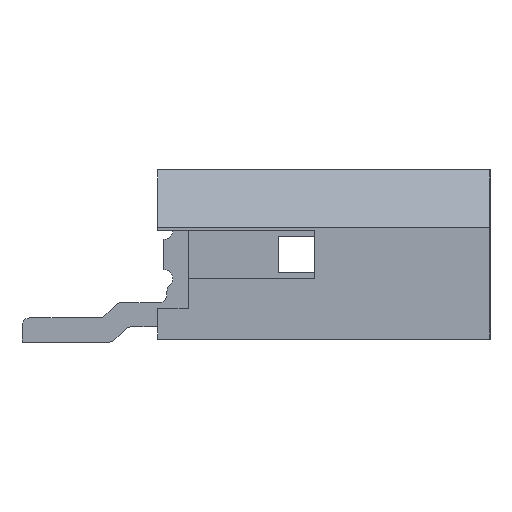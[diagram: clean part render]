
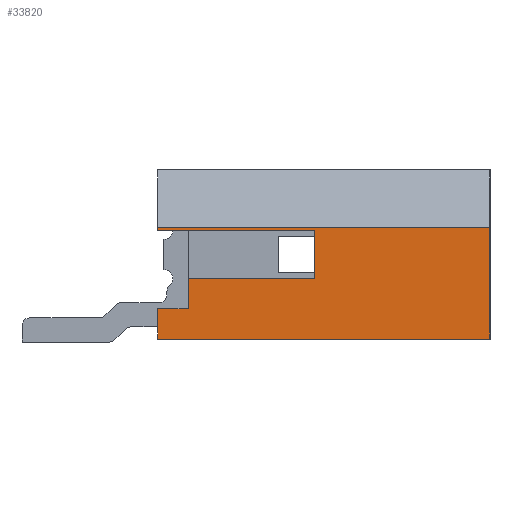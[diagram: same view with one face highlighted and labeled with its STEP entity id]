
A CAD part, left-side view. The second image highlights one B-rep face of the part: STEP entity #33820.
In plain terms, the highlighted planar face has unit normal (-1, 0, 0).
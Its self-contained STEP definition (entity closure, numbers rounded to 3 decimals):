
#24702=DIRECTION('',(0.,0.,-1.));
#24703=VECTOR('',#24702,1.85);
#24704=CARTESIAN_POINT('',(-4.,-2.75,0.45));
#24705=LINE('',#24704,#24703);
#24906=DIRECTION('',(0.,1.,0.));
#24907=VECTOR('',#24906,2.1);
#24908=CARTESIAN_POINT('',(-4.,0.15,-0.4));
#24909=LINE('',#24908,#24907);
#24910=DIRECTION('',(0.,0.,-1.));
#24911=VECTOR('',#24910,0.05);
#24912=CARTESIAN_POINT('',(-4.,2.75,0.45));
#24913=LINE('',#24912,#24911);
#24914=DIRECTION('',(0.,1.,0.));
#24915=VECTOR('',#24914,5.5);
#24916=CARTESIAN_POINT('',(-4.,-2.75,0.45));
#24917=LINE('',#24916,#24915);
#24918=DIRECTION('',(0.,0.,-1.));
#24919=VECTOR('',#24918,0.5);
#24920=CARTESIAN_POINT('',(-4.,2.75,-0.9));
#24921=LINE('',#24920,#24919);
#24922=DIRECTION('',(0.,1.,0.));
#24923=VECTOR('',#24922,0.5);
#24924=CARTESIAN_POINT('',(-4.,2.25,-0.9));
#24925=LINE('',#24924,#24923);
#24926=DIRECTION('',(0.,0.,-1.));
#24927=VECTOR('',#24926,0.5);
#24928=CARTESIAN_POINT('',(-4.,2.25,-0.4));
#24929=LINE('',#24928,#24927);
#24942=DIRECTION('',(0.,0.,1.));
#24943=VECTOR('',#24942,0.8);
#24944=CARTESIAN_POINT('',(-4.,0.15,-0.4));
#24945=LINE('',#24944,#24943);
#25110=DIRECTION('',(0.,1.,0.));
#25111=VECTOR('',#25110,2.6);
#25112=CARTESIAN_POINT('',(-4.,0.15,0.4));
#25113=LINE('',#25112,#25111);
#27214=DIRECTION('',(0.,1.,0.));
#27215=VECTOR('',#27214,5.5);
#27216=CARTESIAN_POINT('',(-4.,-2.75,-1.4));
#27217=LINE('',#27216,#27215);
#31976=CARTESIAN_POINT('',(-4.,2.75,-0.9));
#31977=CARTESIAN_POINT('',(-4.,2.75,-1.4));
#31978=VERTEX_POINT('',#31976);
#31979=VERTEX_POINT('',#31977);
#32399=CARTESIAN_POINT('',(-4.,0.15,-0.4));
#32400=CARTESIAN_POINT('',(-4.,2.25,-0.4));
#32401=VERTEX_POINT('',#32399);
#32402=VERTEX_POINT('',#32400);
#32603=CARTESIAN_POINT('',(-4.,-2.75,0.45));
#32604=CARTESIAN_POINT('',(-4.,2.75,0.45));
#32605=VERTEX_POINT('',#32603);
#32606=VERTEX_POINT('',#32604);
#32770=CARTESIAN_POINT('',(-4.,2.25,-0.9));
#32772=VERTEX_POINT('',#32770);
#32877=CARTESIAN_POINT('',(-4.,2.75,0.4));
#32878=VERTEX_POINT('',#32877);
#32957=CARTESIAN_POINT('',(-4.,0.15,0.4));
#32958=VERTEX_POINT('',#32957);
#33017=CARTESIAN_POINT('',(-4.,-2.75,-1.4));
#33018=VERTEX_POINT('',#33017);
#33794=CARTESIAN_POINT('',(-4.,2.75,-1.4));
#33795=DIRECTION('',(-1.,0.,0.));
#33796=DIRECTION('',(0.,0.,1.));
#33797=AXIS2_PLACEMENT_3D('',#33794,#33795,#33796);
#33798=PLANE('',#33797);
#33800=ORIENTED_EDGE('',*,*,#33799,.F.);
#33802=ORIENTED_EDGE('',*,*,#33801,.T.);
#33804=ORIENTED_EDGE('',*,*,#33803,.T.);
#33806=ORIENTED_EDGE('',*,*,#33805,.F.);
#33808=ORIENTED_EDGE('',*,*,#33807,.F.);
#33809=ORIENTED_EDGE('',*,*,#33613,.T.);
#33811=ORIENTED_EDGE('',*,*,#33810,.T.);
#33813=ORIENTED_EDGE('',*,*,#33812,.F.);
#33815=ORIENTED_EDGE('',*,*,#33814,.F.);
#33817=ORIENTED_EDGE('',*,*,#33816,.F.);
#33818=EDGE_LOOP('',(#33800,#33802,#33804,#33806,#33808,#33809,#33811,#33813,
#33815,#33817));
#33819=FACE_OUTER_BOUND('',#33818,.F.);
#33613=EDGE_CURVE('',#32605,#33018,#24705,.T.);
#33799=EDGE_CURVE('',#32401,#32402,#24909,.T.);
#33801=EDGE_CURVE('',#32401,#32958,#24945,.T.);
#33803=EDGE_CURVE('',#32958,#32878,#25113,.T.);
#33805=EDGE_CURVE('',#32606,#32878,#24913,.T.);
#33807=EDGE_CURVE('',#32605,#32606,#24917,.T.);
#33810=EDGE_CURVE('',#33018,#31979,#27217,.T.);
#33812=EDGE_CURVE('',#31978,#31979,#24921,.T.);
#33814=EDGE_CURVE('',#32772,#31978,#24925,.T.);
#33816=EDGE_CURVE('',#32402,#32772,#24929,.T.);
#33820=ADVANCED_FACE('',(#33819),#33798,.T.);
